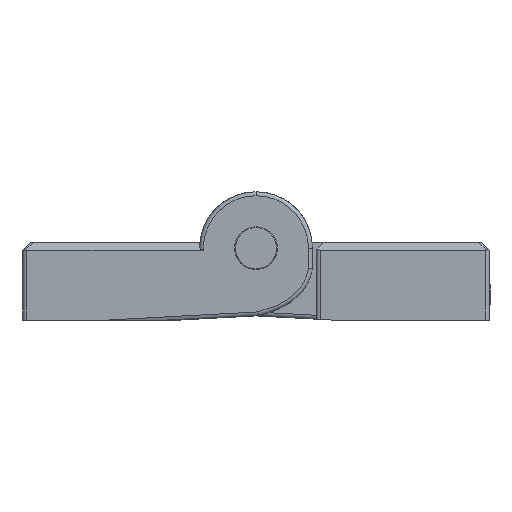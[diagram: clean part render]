
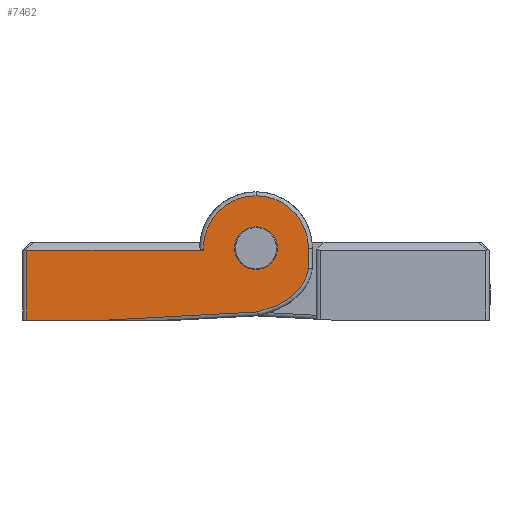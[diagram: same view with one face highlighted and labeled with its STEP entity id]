
A CAD part, front view. The second image highlights one B-rep face of the part: STEP entity #7462.
In plain terms, the highlighted planar face has unit normal (0, -1, 0) as drawn and (0, 1, 0) by its records, which use the part's own axes.
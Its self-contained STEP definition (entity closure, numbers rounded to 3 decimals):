
#44 = CARTESIAN_POINT ( 'NONE',  ( -5.735, 50., -5.048 ) ) ;
#86 = EDGE_CURVE ( 'NONE', #6810, #7129, #2422, .T. ) ;
#112 = DIRECTION ( 'NONE',  ( 0., 1., 0. ) ) ;
#381 = CIRCLE ( 'NONE', #2591, 2.75 ) ;
#458 = VERTEX_POINT ( 'NONE', #5651 ) ;
#481 = CIRCLE ( 'NONE', #4122, 6.75 ) ;
#739 = CARTESIAN_POINT ( 'NONE',  ( -6.327, 50., -4.072 ) ) ;
#752 = EDGE_CURVE ( 'NONE', #807, #1123, #5125, .T. ) ;
#807 = VERTEX_POINT ( 'NONE', #6445 ) ;
#886 = CARTESIAN_POINT ( 'NONE',  ( 30., 50., -9.25 ) ) ;
#1013 = ORIENTED_EDGE ( 'NONE', *, *, #6041, .T. ) ;
#1028 = CARTESIAN_POINT ( 'NONE',  ( 0., 50., 0. ) ) ;
#1050 = DIRECTION ( 'NONE',  ( 0., 0., 1. ) ) ;
#1123 = VERTEX_POINT ( 'NONE', #7727 ) ;
#1262 = CARTESIAN_POINT ( 'NONE',  ( 29.5, 50., -9.25 ) ) ;
#1384 = CARTESIAN_POINT ( 'NONE',  ( -0.233, 50., -8.192 ) ) ;
#1415 = CARTESIAN_POINT ( 'NONE',  ( -6.694, 50., -2.995 ) ) ;
#1605 = DIRECTION ( 'NONE',  ( 0., 1., 0. ) ) ;
#1716 = DIRECTION ( 'NONE',  ( 0., 0., 1. ) ) ;
#1771 = LINE ( 'NONE', #3889, #5153 ) ;
#2095 = EDGE_CURVE ( 'NONE', #3658, #807, #481, .T. ) ;
#2158 = VECTOR ( 'NONE', #7232, 1000. ) ;
#2196 = AXIS2_PLACEMENT_3D ( 'NONE', #5676, #1605, #6408 ) ;
#2198 = LINE ( 'NONE', #886, #5845 ) ;
#2243 = PLANE ( 'NONE',  #2196 ) ;
#2283 = VERTEX_POINT ( 'NONE', #3684 ) ;
#2286 = FACE_BOUND ( 'NONE', #7416, .T. ) ;
#2422 = CIRCLE ( 'NONE', #6953, 2.75 ) ;
#2453 = B_SPLINE_CURVE_WITH_KNOTS ( 'NONE', 3,
 ( #1384, #5457, #6861, #2747, #7537, #3430, #8229, #4125, #44, #4798, #739, #5489, #1415, #6221 ),
 .UNSPECIFIED., .F., .F.,
 ( 4, 2, 2, 2, 2, 2, 4 ),
 ( 0., 0.002, 0.005, 0.006, 0.007, 0.008, 0.009 ),
 .UNSPECIFIED. ) ;
#2472 = EDGE_CURVE ( 'NONE', #1123, #4684, #1771, .T. ) ;
#2584 = DIRECTION ( 'NONE',  ( -0.999, 0., 0.054 ) ) ;
#2591 = AXIS2_PLACEMENT_3D ( 'NONE', #1028, #5788, #1716 ) ;
#2673 = CARTESIAN_POINT ( 'NONE',  ( 0., 50., -2.75 ) ) ;
#2747 = CARTESIAN_POINT ( 'NONE',  ( -3.1, 50., -7.186 ) ) ;
#2849 = CARTESIAN_POINT ( 'NONE',  ( -6.75, 50., 0. ) ) ;
#2861 = ORIENTED_EDGE ( 'NONE', *, *, #8562, .T. ) ;
#3430 = CARTESIAN_POINT ( 'NONE',  ( -4.678, 50., -6.138 ) ) ;
#3513 = DIRECTION ( 'NONE',  ( 0., 0., 1. ) ) ;
#3658 = VERTEX_POINT ( 'NONE', #2849 ) ;
#3684 = CARTESIAN_POINT ( 'NONE',  ( -0.233, 50., -8.192 ) ) ;
#3693 = CARTESIAN_POINT ( 'NONE',  ( 0., 50., 0. ) ) ;
#3889 = CARTESIAN_POINT ( 'NONE',  ( 30., 50., -0.25 ) ) ;
#3927 = ORIENTED_EDGE ( 'NONE', *, *, #4211, .F. ) ;
#4122 = AXIS2_PLACEMENT_3D ( 'NONE', #3693, #5810, #1050 ) ;
#4125 = CARTESIAN_POINT ( 'NONE',  ( -5.495, 50., -5.343 ) ) ;
#4211 = EDGE_CURVE ( 'NONE', #7129, #6810, #381, .T. ) ;
#4218 = ORIENTED_EDGE ( 'NONE', *, *, #7356, .T. ) ;
#4339 = VERTEX_POINT ( 'NONE', #1262 ) ;
#4352 = EDGE_LOOP ( 'NONE', ( #4395, #5695, #5837, #5280, #1013, #5026, #2861, #4218 ) ) ;
#4395 = ORIENTED_EDGE ( 'NONE', *, *, #2095, .T. ) ;
#4631 = CARTESIAN_POINT ( 'NONE',  ( 0., 50., 0. ) ) ;
#4684 = VERTEX_POINT ( 'NONE', #7707 ) ;
#4698 = DIRECTION ( 'NONE',  ( 0., 1., 0. ) ) ;
#4798 = CARTESIAN_POINT ( 'NONE',  ( -6.155, 50., -4.408 ) ) ;
#4810 = CARTESIAN_POINT ( 'NONE',  ( -6.75, 50., 0. ) ) ;
#5026 = ORIENTED_EDGE ( 'NONE', *, *, #6186, .T. ) ;
#5125 = CIRCLE ( 'NONE', #6444, 6.75 ) ;
#5153 = VECTOR ( 'NONE', #8677, 1000. ) ;
#5280 = ORIENTED_EDGE ( 'NONE', *, *, #8414, .T. ) ;
#5369 = LINE ( 'NONE', #7367, #2158 ) ;
#5457 = CARTESIAN_POINT ( 'NONE',  ( -0.975, 50., -8.018 ) ) ;
#5489 = CARTESIAN_POINT ( 'NONE',  ( -6.597, 50., -3.367 ) ) ;
#5651 = CARTESIAN_POINT ( 'NONE',  ( 19.201, 50., -9.25 ) ) ;
#5656 = DIRECTION ( 'NONE',  ( -1., 0., 0. ) ) ;
#5676 = CARTESIAN_POINT ( 'NONE',  ( 0., 50., 0. ) ) ;
#5695 = ORIENTED_EDGE ( 'NONE', *, *, #752, .T. ) ;
#5707 = DIRECTION ( 'NONE',  ( 0., 0., 1. ) ) ;
#5721 = VECTOR ( 'NONE', #2584, 1000. ) ;
#5722 = ORIENTED_EDGE ( 'NONE', *, *, #86, .F. ) ;
#5788 = DIRECTION ( 'NONE',  ( 0., 1., 0. ) ) ;
#5810 = DIRECTION ( 'NONE',  ( 0., 1., 0. ) ) ;
#5837 = ORIENTED_EDGE ( 'NONE', *, *, #2472, .T. ) ;
#5845 = VECTOR ( 'NONE', #5656, 1000. ) ;
#6041 = EDGE_CURVE ( 'NONE', #4339, #458, #2198, .T. ) ;
#6186 = EDGE_CURVE ( 'NONE', #458, #2283, #7549, .T. ) ;
#6221 = CARTESIAN_POINT ( 'NONE',  ( -6.75, 50., -2.616 ) ) ;
#6408 = DIRECTION ( 'NONE',  ( 0., 0., 1. ) ) ;
#6444 = AXIS2_PLACEMENT_3D ( 'NONE', #6519, #4698, #5707 ) ;
#6445 = CARTESIAN_POINT ( 'NONE',  ( 0., 50., 6.75 ) ) ;
#6519 = CARTESIAN_POINT ( 'NONE',  ( 0., 50., 0. ) ) ;
#6692 = CARTESIAN_POINT ( 'NONE',  ( -0.277, 50., -8.19 ) ) ;
#6810 = VERTEX_POINT ( 'NONE', #8424 ) ;
#6818 = VECTOR ( 'NONE', #3513, 1000. ) ;
#6861 = CARTESIAN_POINT ( 'NONE',  ( -1.701, 50., -7.787 ) ) ;
#6953 = AXIS2_PLACEMENT_3D ( 'NONE', #4631, #112, #8370 ) ;
#7030 = LINE ( 'NONE', #4810, #6818 ) ;
#7129 = VERTEX_POINT ( 'NONE', #2673 ) ;
#7232 = DIRECTION ( 'NONE',  ( 0., 0., -1. ) ) ;
#7356 = EDGE_CURVE ( 'NONE', #7708, #3658, #7030, .T. ) ;
#7367 = CARTESIAN_POINT ( 'NONE',  ( 29.5, 50., -9.25 ) ) ;
#7416 = EDGE_LOOP ( 'NONE', ( #3927, #5722 ) ) ;
#7462 = ADVANCED_FACE ( 'NONE', ( #7545, #2286 ), #2243, .T. ) ;
#7537 = CARTESIAN_POINT ( 'NONE',  ( -3.763, 50., -6.822 ) ) ;
#7545 = FACE_OUTER_BOUND ( 'NONE', #4352, .T. ) ;
#7549 = LINE ( 'NONE', #6692, #5721 ) ;
#7707 = CARTESIAN_POINT ( 'NONE',  ( 29.5, 50., -0.25 ) ) ;
#7708 = VERTEX_POINT ( 'NONE', #8826 ) ;
#7727 = CARTESIAN_POINT ( 'NONE',  ( 6.745, 50., -0.25 ) ) ;
#8229 = CARTESIAN_POINT ( 'NONE',  ( -4.967, 50., -5.887 ) ) ;
#8370 = DIRECTION ( 'NONE',  ( 0., 0., 1. ) ) ;
#8414 = EDGE_CURVE ( 'NONE', #4684, #4339, #5369, .T. ) ;
#8424 = CARTESIAN_POINT ( 'NONE',  ( 0., 50., 2.75 ) ) ;
#8562 = EDGE_CURVE ( 'NONE', #2283, #7708, #2453, .T. ) ;
#8677 = DIRECTION ( 'NONE',  ( 1., 0., 0. ) ) ;
#8826 = CARTESIAN_POINT ( 'NONE',  ( -6.75, 50., -2.616 ) ) ;
